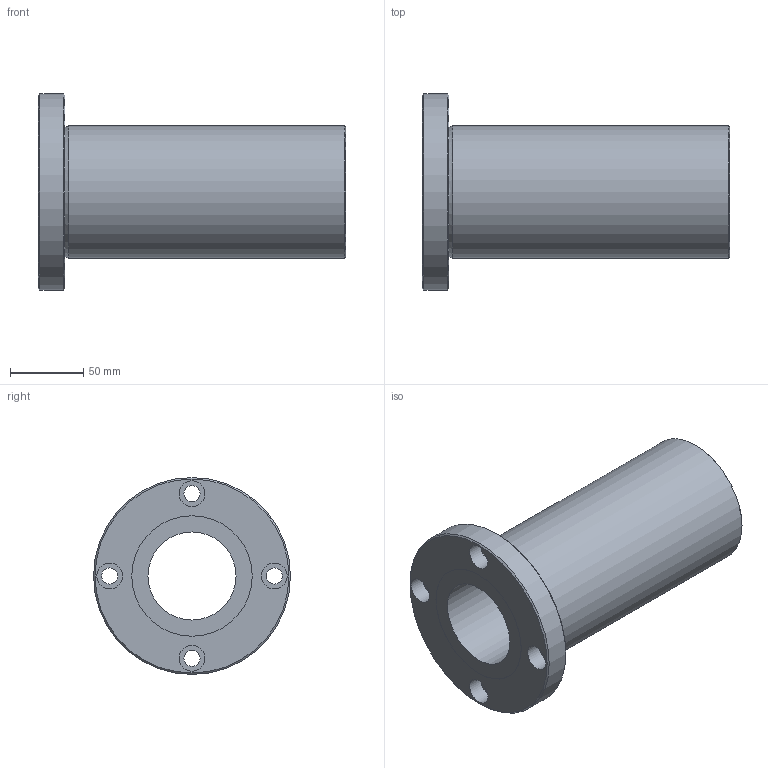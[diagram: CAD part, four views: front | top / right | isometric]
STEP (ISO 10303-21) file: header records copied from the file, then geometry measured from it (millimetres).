
FILE_DESCRIPTION((''),'2;1');
FILE_NAME('D:\製品 (図面)\カタログ用3D\リニアベアリング関連\STEP形式\LFD\LFD60.stp','2010-06-03T09:22:39',('Tsuchiya'),(''),'Autodesk Inventor 10','Autodesk Inventor 10','');
FILE_SCHEMA(('AUTOMOTIVE_DESIGN { 1 0 10303 214 1 1 1 1 }'));
Length unit declared in the file: millimetre
Products named in the file (1): LFD60
Bounding box: 209 x 134 x 134 mm (x, y, z)
Volume: 863447.4 mm3; surface area: 125905.4 mm2
Topology: 1 solids, 1 shells, 26 faces, 47 edges, 30 vertices
Faces by surface type: cylinder 13, plane 9, cone 2, torus 1, bspline 1
Full cylindrical faces by diameter (mm): 11 x4, 17.5 x4, 60 x1, 82 x2, 90 x1, 134 x1
Entity records: 647 total; most frequent: CARTESIAN_POINT 131, DIRECTION 112, ORIENTED_EDGE 60, EDGE_LOOP 60, AXIS2_PLACEMENT_3D 56, FACE_BOUND 34, VERTEX_POINT 30, CIRCLE 30
